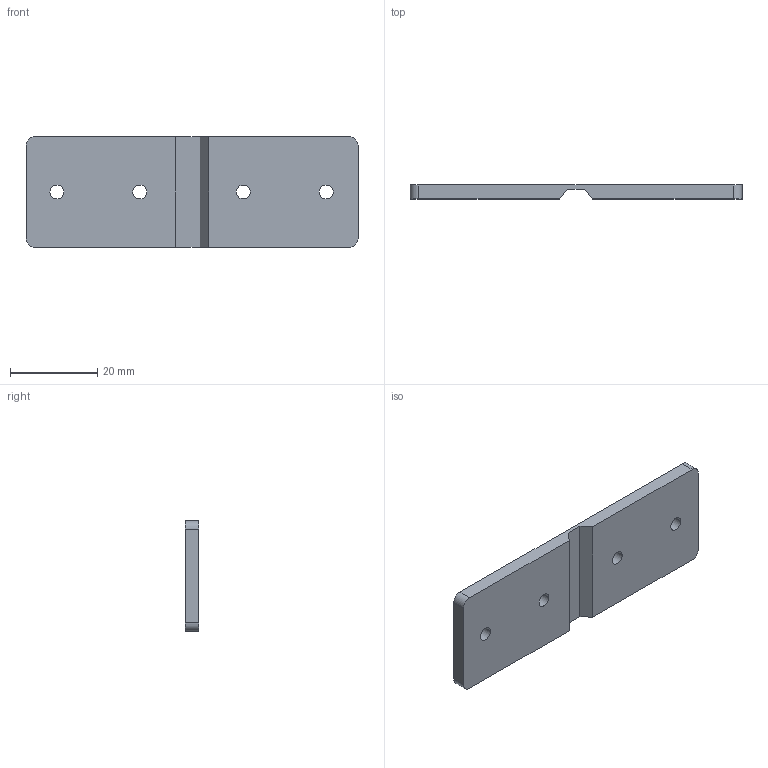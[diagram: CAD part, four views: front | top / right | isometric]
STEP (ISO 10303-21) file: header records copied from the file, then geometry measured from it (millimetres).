
FILE_DESCRIPTION((''),'2;1');
FILE_NAME('6525.01.stp','2015-07-17T10:22:03',(''),(''),'Mechanical Desktop 2006','Mechanical Desktop 2006',', , ');
FILE_SCHEMA(('CONFIG_CONTROL_DESIGN'));
Length unit declared in the file: millimetre
Products named in the file (2): 6525; TEIL3
Assembly tree (1 placements, depth 2):
  6525
    TEIL3
Bounding box: 76.2 x 3.2 x 25.4 mm (x, y, z)
Volume: 5753 mm3; surface area: 4595 mm2
Topology: 1 solids, 1 shells, 22 faces, 60 edges, 40 vertices
Faces by surface type: cylinder 12, plane 10
Entity records: 833 total; most frequent: DIRECTION 132, CARTESIAN_POINT 124, ORIENTED_EDGE 120, EDGE_CURVE 60, AXIS2_PLACEMENT_3D 48, VERTEX_POINT 40, VECTOR 36, LINE 36
